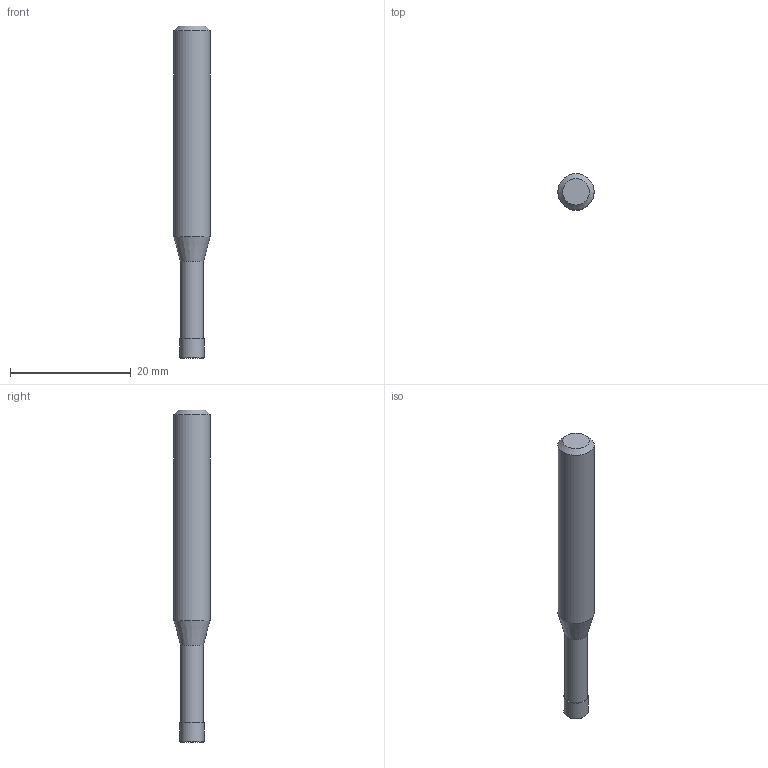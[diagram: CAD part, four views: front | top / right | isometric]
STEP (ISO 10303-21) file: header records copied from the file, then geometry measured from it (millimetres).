
FILE_DESCRIPTION((''),'2;1');
FILE_NAME('C:\Users\nsx150\AppData\Local\Temp\Mastercam 2021\8MCJJJGUOI\TEMP.step','2022-10-12T10:46:00',(''),(''),'STEP Write','Mastercam 2021 ... CNC Software, Inc.','');
FILE_SCHEMA(('AUTOMOTIVE_DESIGN'));
Length unit declared in the file: millimetre
Products named in the file (1): None
Bounding box: 6 x 6 x 55 mm (x, y, z)
Volume: 1245.2 mm3; surface area: 970.7 mm2
Topology: 2 solids, 2 shells, 10 faces, 14 edges, 8 vertices
Faces by surface type: plane 4, cylinder 3, cone 2, torus 1
Full cylindrical faces by diameter (mm): 3.8 x1, 4 x1, 6 x1
Entity records: 232 total; most frequent: DIRECTION 40, CARTESIAN_POINT 28, AXIS2_PLACEMENT_3D 20, ORIENTED_EDGE 16, EDGE_LOOP 16, STYLED_ITEM 13, ADVANCED_FACE 10, FACE_BOUND 10
